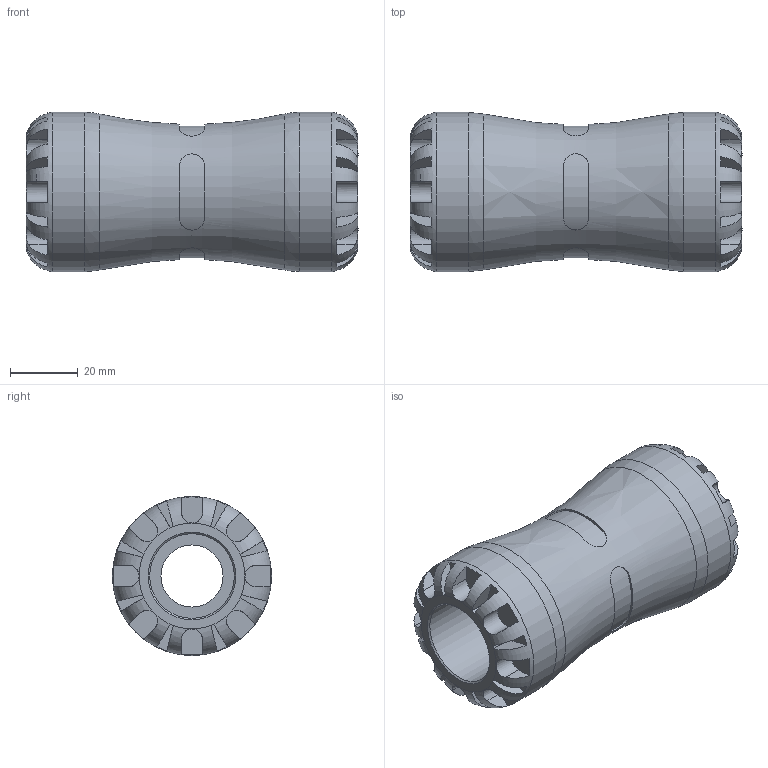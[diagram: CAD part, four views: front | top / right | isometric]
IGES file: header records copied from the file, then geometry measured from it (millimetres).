
Global section: file name: 1001C0025022_1901C0025022.ipt; native system: Autodesk Inventor 2015; preprocessor: unknown; author: KIM; date: 20170122.100459; units: millimetre
Bounding box: 98 x 47 x 47 mm (x, y, z)
Volume: 100107.4 mm3; surface area: 25152.7 mm2
Topology: 1 solids, 1 shells, 164 faces, 427 edges, 270 vertices
Faces by surface type: plane 108, revolution 34, cylinder 22
Full cylindrical faces by diameter (mm): 47 x2
